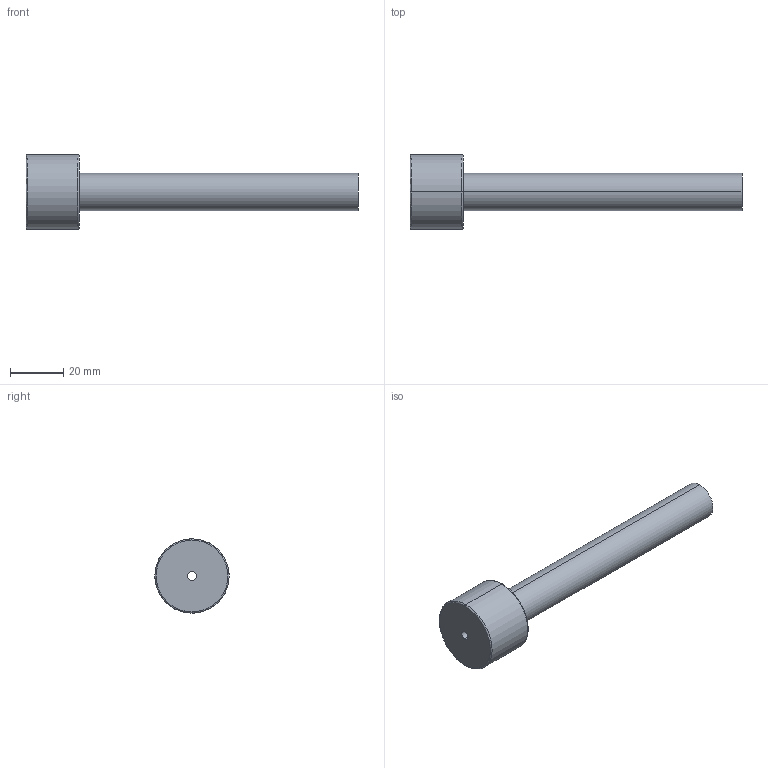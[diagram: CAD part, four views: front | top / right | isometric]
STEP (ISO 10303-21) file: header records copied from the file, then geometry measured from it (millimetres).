
FILE_DESCRIPTION(('CATIA V5 STEP Exchange'),'2;1');
FILE_NAME('C:\Users\Utente\Desktop\IO LAVORO\3D X SITO CF\X SITO\PLASTICA\3D files 367\367-14X125.stp','2021-03-24T15:10:42+00:00',('none'),('none'),'CATIA Version 5 Release 20 GA (IN-10)','CATIA V5 STEP AP203','none');
FILE_SCHEMA(('CONFIG_CONTROL_DESIGN'));
Length unit declared in the file: millimetre
Products named in the file (1): 367-14X125
Bounding box: 125 x 28 x 28 mm (x, y, z)
Volume: 23876.7 mm3; surface area: 10068.5 mm2
Topology: 1 solids, 1 shells, 13 faces, 42 edges, 32 vertices
Faces by surface type: torus 4, cylinder 4, plane 3, cone 2
Entity records: 608 total; most frequent: CARTESIAN_POINT 194, ORIENTED_EDGE 84, DIRECTION 60, AXIS2_PLACEMENT_3D 42, EDGE_CURVE 42, VERTEX_POINT 32, CIRCLE 28, EDGE_LOOP 16
